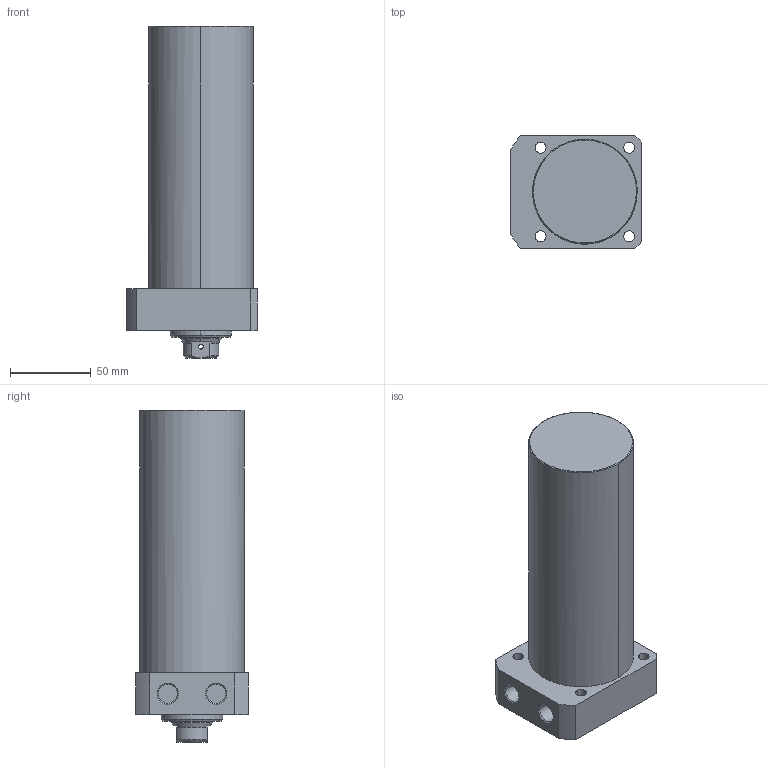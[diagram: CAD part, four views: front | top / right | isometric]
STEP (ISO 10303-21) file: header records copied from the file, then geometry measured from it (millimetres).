
FILE_DESCRIPTION((' '),'2;1');
FILE_NAME( 'TLLR-065CB-130.STEP.stp', '2025-10-24T16:34:57', (' '), ('--- Datakit www.datakit.com---'), ' Datakit CrossCadWare V2024.1 Dec 21 2023', 'Mastercam 2025', ' ');
FILE_SCHEMA(('AUTOMOTIVE_DESIGN { 1 0 10303 214 1 1 1 1 }'));
Length unit declared in the file: millimetre
Products named in the file (1): TLLR-065CB-130
Bounding box: 81 x 70 x 206 mm (x, y, z)
Volume: 684770.6 mm3; surface area: 57755.6 mm2
Topology: 1 solids, 1 shells, 67 faces, 197 edges, 136 vertices
Faces by surface type: cylinder 32, plane 19, cone 14, torus 2
Entity records: 3278 total; most frequent: CARTESIAN_POINT 1359, DIRECTION 426, ORIENTED_EDGE 390, EDGE_CURVE 195, AXIS2_PLACEMENT_3D 179, VERTEX_POINT 136, CIRCLE 111, EDGE_LOOP 85
